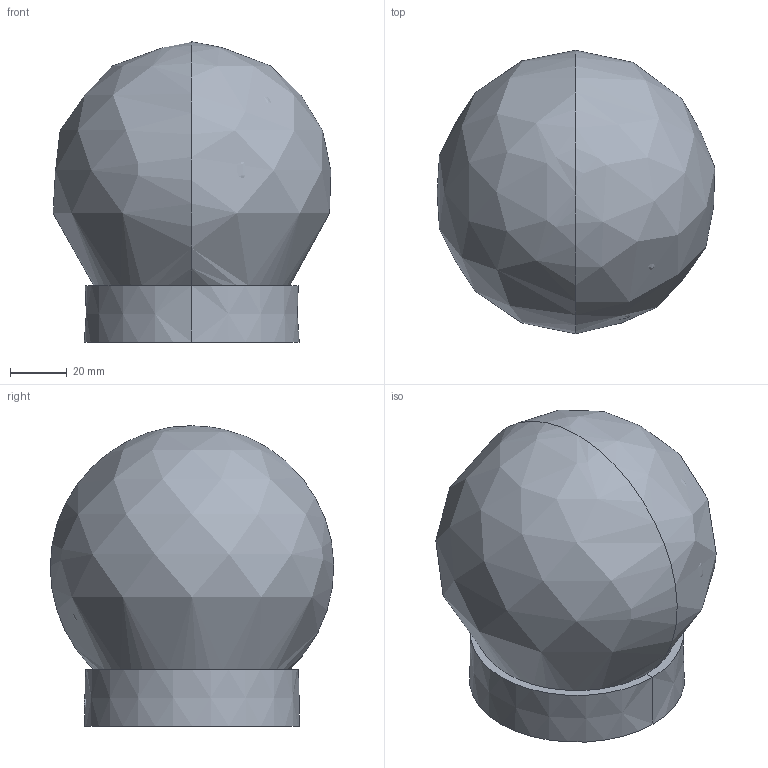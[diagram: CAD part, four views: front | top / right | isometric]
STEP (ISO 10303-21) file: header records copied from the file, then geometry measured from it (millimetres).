
FILE_DESCRIPTION(/* description */ (''),/* implementation_level */ '2;1');
FILE_NAME(/* name */ '60011.step',/* time_stamp */ '2024-05-14T11:26:49+02:00',/* author */ ('RenataManzini'),/* organization */ (''),/* preprocessor_version */ 'ST-DEVELOPER v20',/* originating_system */ 'AutoCAD Mechanical',/* authorisation */ '');
FILE_SCHEMA (('AUTOMOTIVE_DESIGN { 1 0 10303 214 3 1 1 }'));
Length unit declared in the file: millimetre
Products named in the file (2): Product; PING_PIEZA - Lamp Holder-701795-_3D_
Assembly tree (1 placements, depth 2):
  Product
    PING_PIEZA - Lamp Holder-701795-_3D_
Bounding box: 98.12 x 100.17 x 106.09 mm (x, y, z)
Volume: 138079.9 mm3; surface area: 83505.4 mm2
Topology: 5 solids, 5 shells, 71 faces, 159 edges, 97 vertices
Faces by surface type: plane 29, cylinder 26, cone 10, bspline 4, torus 2
Entity records: 2687 total; most frequent: CARTESIAN_POINT 1018, DIRECTION 366, ORIENTED_EDGE 304, EDGE_CURVE 152, AXIS2_PLACEMENT_3D 146, VERTEX_POINT 92, EDGE_LOOP 80, CIRCLE 76
